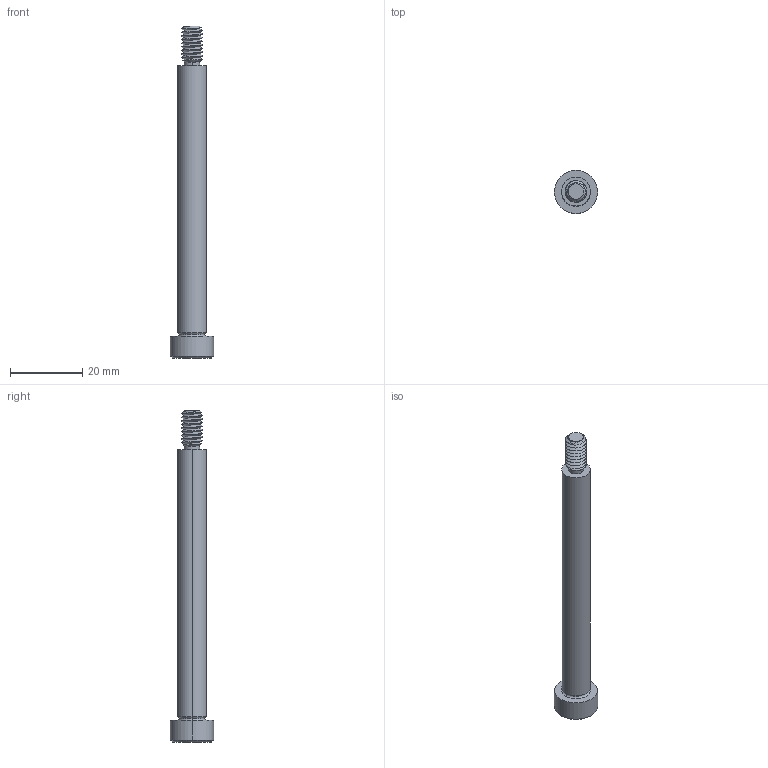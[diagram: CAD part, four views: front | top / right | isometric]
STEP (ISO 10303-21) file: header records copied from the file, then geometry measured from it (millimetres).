
FILE_DESCRIPTION (( 'STEP AP203' ), '1' );
FILE_NAME ('P0130.080-075-B2.step', '2021-11-09T21:44:50', ( '' ), ( '' ), 'SwSTEP 2.0', 'SolidWorks 2019', '' );
FILE_SCHEMA (( 'CONFIG_CONTROL_DESIGN' ));
Length unit declared in the file: millimetre
Products named in the file (1): P0130.080-075-B2
Bounding box: 12 x 12 x 92 mm (x, y, z)
Volume: 4603.6 mm3; surface area: 2717.8 mm2
Topology: 1 solids, 1 shells, 60 faces, 142 edges, 85 vertices
Faces by surface type: cylinder 24, plane 16, cone 14, torus 4, bspline 2
Entity records: 4245 total; most frequent: CARTESIAN_POINT 2899, ORIENTED_EDGE 280, DIRECTION 247, EDGE_CURVE 140, AXIS2_PLACEMENT_3D 99, VERTEX_POINT 85, EDGE_LOOP 63, FACE_OUTER_BOUND 60
